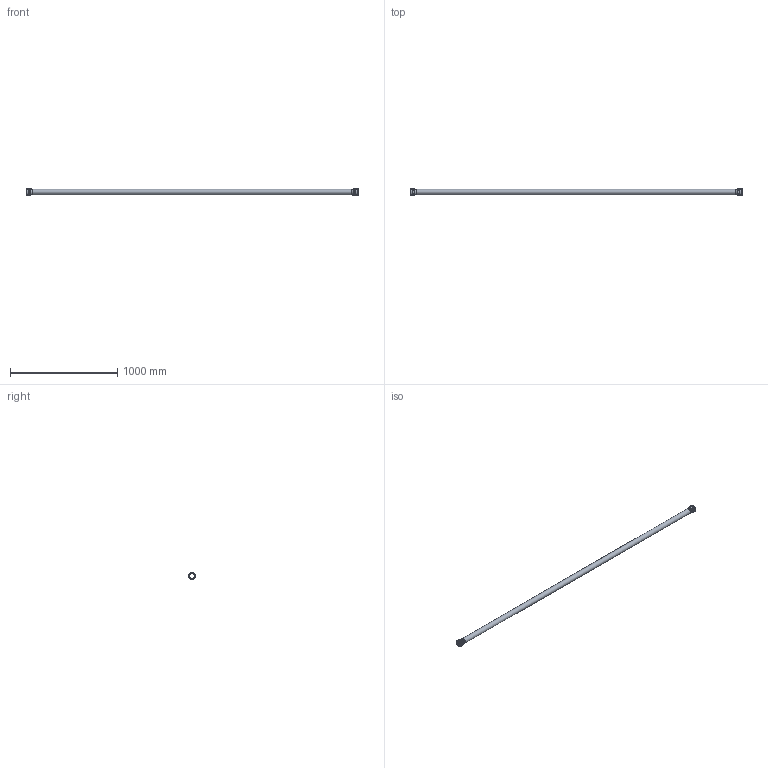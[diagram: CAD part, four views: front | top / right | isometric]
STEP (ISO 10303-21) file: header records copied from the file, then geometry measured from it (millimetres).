
FILE_DESCRIPTION(/* description */ (''),/* implementation_level */ '2;1');
FILE_NAME(/* name */ 'H:\Geberit-Teile\Export\PP_Rohr 2 Muffen_TEST\stp\393214.stp',/* time_stamp */ '2017-02-13T17:09:50+01:00',/* author */ ('seihe2'),/* organization */ (''),/* preprocessor_version */ 'ST-DEVELOPER v15.2',/* originating_system */ 'Autodesk Inventor 2014',/* authorisation */ '');
FILE_SCHEMA (('AUTOMOTIVE_DESIGN { 1 0 10303 214 3 1 1 }'));
Length unit declared in the file: millimetre
Products named in the file (1): 393214
Bounding box: 3101.6 x 65.1 x 65.1 mm (x, y, z)
Volume: 1401440.3 mm3; surface area: 941795.5 mm2
Topology: 3 solids, 3 shells, 70 faces, 154 edges, 108 vertices
Faces by surface type: torus 32, cylinder 18, plane 14, bspline 4, cone 2
Full cylindrical faces by diameter (mm): 44.15 x3, 50.15 x3, 50.8 x2, 52 x2, 56.3 x2, 57.5 x2, 59.9 x2, 65.1 x2
Entity records: 4044 total; most frequent: CARTESIAN_POINT 2599, ORIENTED_EDGE 248, DIRECTION 238, EDGE_LOOP 124, EDGE_CURVE 124, AXIS2_PLACEMENT_3D 119, VERTEX_POINT 108, STYLED_ITEM 73
